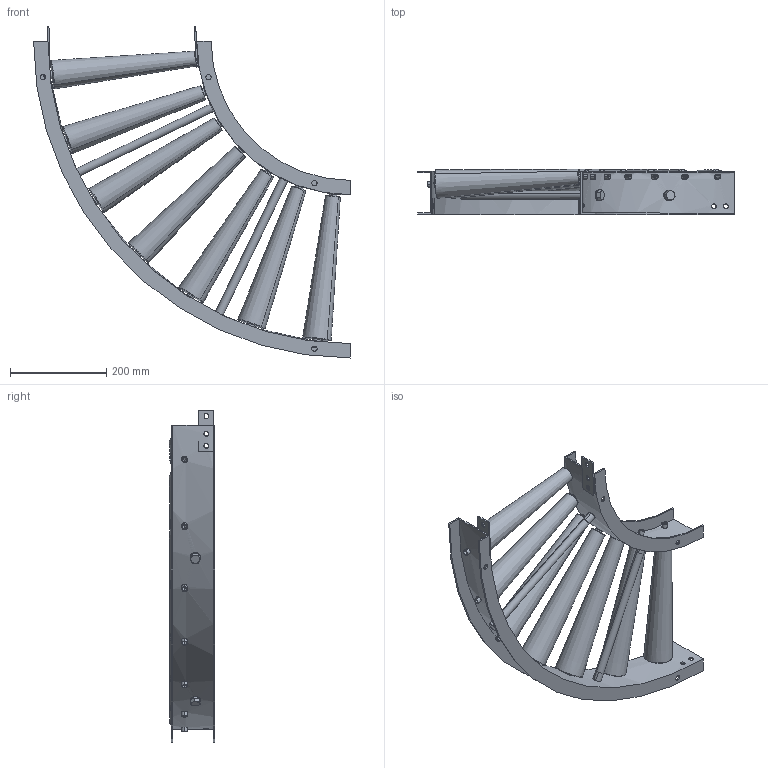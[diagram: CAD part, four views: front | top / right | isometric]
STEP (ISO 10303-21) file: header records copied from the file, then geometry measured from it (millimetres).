
FILE_DESCRIPTION (( 'STEP AP203' ), '1' );
FILE_NAME ('S-TC320_C.step', '2024-03-02T05:10:18', ( '' ), ( '' ), 'SwSTEP 2.0', 'SolidWorks 2023', '' );
FILE_SCHEMA (( 'CONFIG_CONTROL_DESIGN' ));
Length unit declared in the file: millimetre
Products named in the file (1): S-TC320_C
Bounding box: 660 x 94.25 x 691.57 mm (x, y, z)
Volume: 4194035.5 mm3; surface area: 1083966.3 mm2
Topology: 28 solids, 28 shells, 422 faces, 992 edges, 644 vertices
Faces by surface type: cylinder 187, plane 169, cone 38, torus 28
Entity records: 16199 total; most frequent: CARTESIAN_POINT 6241, DIRECTION 2062, ORIENTED_EDGE 1984, EDGE_CURVE 992, AXIS2_PLACEMENT_3D 829, VERTEX_POINT 644, EDGE_LOOP 544, ADVANCED_FACE 422
